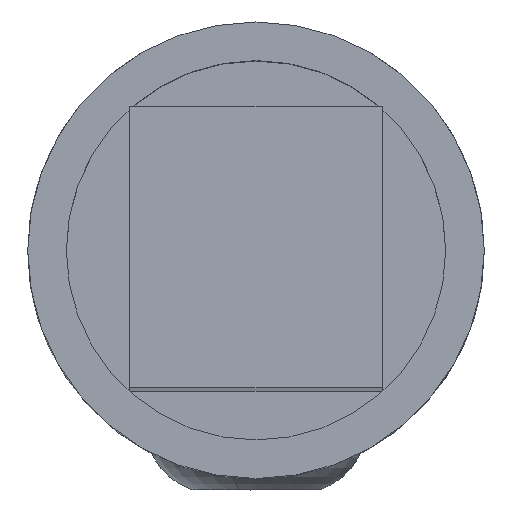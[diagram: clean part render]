
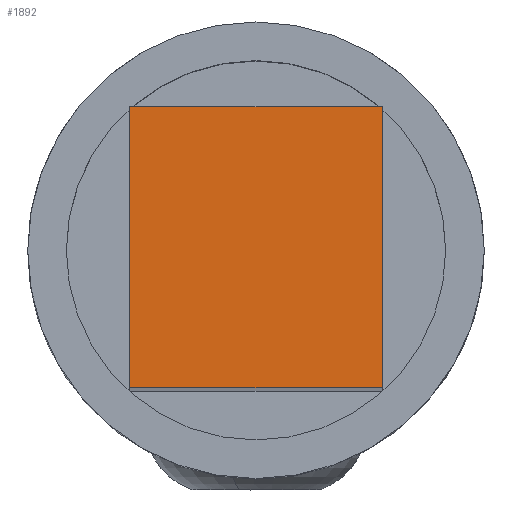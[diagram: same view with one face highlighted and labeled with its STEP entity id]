
A CAD part, top view. The second image highlights one B-rep face of the part: STEP entity #1892.
In plain terms, the highlighted planar face has unit normal (0, 0, 1).
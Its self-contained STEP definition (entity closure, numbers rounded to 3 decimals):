
#24 = CARTESIAN_POINT ( 'NONE',  ( -1.8, 2., 30. ) ) ;
#56 = ORIENTED_EDGE ( 'NONE', *, *, #1844, .T. ) ;
#72 = VERTEX_POINT ( 'NONE', #1087 ) ;
#81 = VECTOR ( 'NONE', #766, 1000. ) ;
#90 = DIRECTION ( 'NONE',  ( -1., 0., 0. ) ) ;
#188 = CARTESIAN_POINT ( 'NONE',  ( -1.8, -2., 30. ) ) ;
#189 = VERTEX_POINT ( 'NONE', #202 ) ;
#202 = CARTESIAN_POINT ( 'NONE',  ( 1.8, -2., 30. ) ) ;
#211 = EDGE_CURVE ( 'NONE', #1539, #266, #423, .T. ) ;
#248 = ORIENTED_EDGE ( 'NONE', *, *, #469, .T. ) ;
#266 = VERTEX_POINT ( 'NONE', #372 ) ;
#269 = CARTESIAN_POINT ( 'NONE',  ( 1.8, 2., 30. ) ) ;
#372 = CARTESIAN_POINT ( 'NONE',  ( -1.8, 2., 30. ) ) ;
#423 = LINE ( 'NONE', #1081, #1454 ) ;
#450 = LINE ( 'NONE', #269, #1579 ) ;
#469 = EDGE_CURVE ( 'NONE', #266, #72, #1388, .T. ) ;
#490 = PLANE ( 'NONE',  #1030 ) ;
#602 = VECTOR ( 'NONE', #1044, 1000. ) ;
#628 = DIRECTION ( 'NONE',  ( 1., 0., 0. ) ) ;
#679 = ORIENTED_EDGE ( 'NONE', *, *, #1420, .T. ) ;
#766 = DIRECTION ( 'NONE',  ( 1., 0., 0. ) ) ;
#889 = ORIENTED_EDGE ( 'NONE', *, *, #211, .T. ) ;
#915 = CARTESIAN_POINT ( 'NONE',  ( 1.8, -2., 30. ) ) ;
#1030 = AXIS2_PLACEMENT_3D ( 'NONE', #915, #1521, #628 ) ;
#1044 = DIRECTION ( 'NONE',  ( 0., -1., 0. ) ) ;
#1081 = CARTESIAN_POINT ( 'NONE',  ( 1.8, 2., 30. ) ) ;
#1087 = CARTESIAN_POINT ( 'NONE',  ( -1.8, -2., 30. ) ) ;
#1174 = CARTESIAN_POINT ( 'NONE',  ( 1.8, 2., 30. ) ) ;
#1198 = FACE_OUTER_BOUND ( 'NONE', #1822, .T. ) ;
#1241 = LINE ( 'NONE', #188, #81 ) ;
#1388 = LINE ( 'NONE', #24, #602 ) ;
#1420 = EDGE_CURVE ( 'NONE', #189, #1539, #450, .T. ) ;
#1454 = VECTOR ( 'NONE', #90, 1000. ) ;
#1521 = DIRECTION ( 'NONE',  ( 0., 0., 1. ) ) ;
#1539 = VERTEX_POINT ( 'NONE', #1174 ) ;
#1579 = VECTOR ( 'NONE', #1594, 1000. ) ;
#1594 = DIRECTION ( 'NONE',  ( 0., 1., 0. ) ) ;
#1822 = EDGE_LOOP ( 'NONE', ( #679, #889, #248, #56 ) ) ;
#1844 = EDGE_CURVE ( 'NONE', #72, #189, #1241, .T. ) ;
#1892 = ADVANCED_FACE ( 'NONE', ( #1198 ), #490, .T. ) ;
